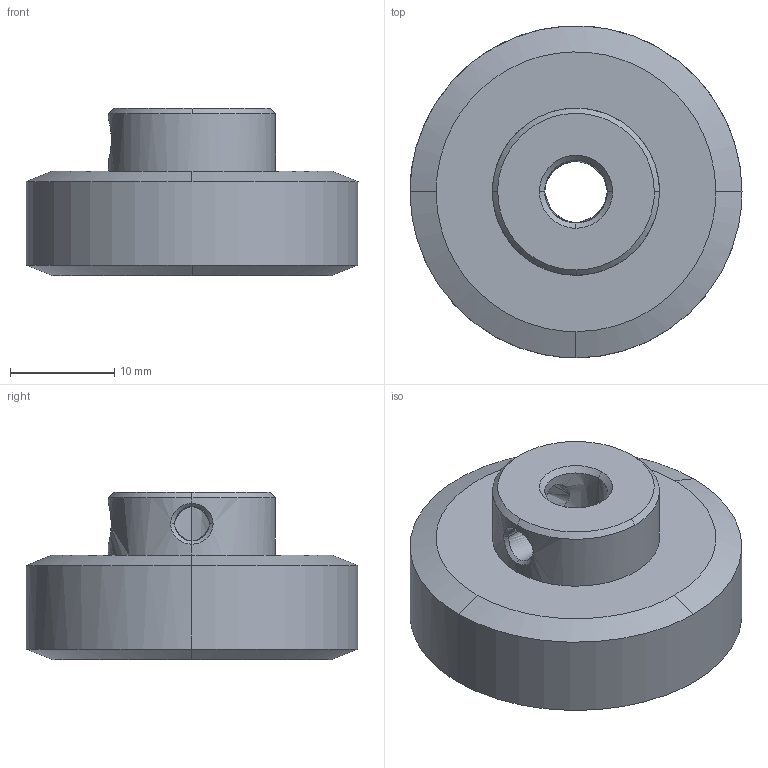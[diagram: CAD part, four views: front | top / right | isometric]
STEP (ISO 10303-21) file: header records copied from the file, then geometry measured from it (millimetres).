
FILE_DESCRIPTION (( 'STEP AP203' ), '1' );
FILE_NAME ('100-Y.STEP', '2021-07-27T00:20:41', ( 'Windows 蚚誧' ), ( '' ), 'SwSTEP 2.0', 'SolidWorks 2018', '' );
FILE_SCHEMA (( 'CONFIG_CONTROL_DESIGN' ));
Length unit declared in the file: millimetre
Products named in the file (1): 100-Y
Bounding box: 31.8 x 31.79 x 16 mm (x, y, z)
Volume: 8360.4 mm3; surface area: 3011.7 mm2
Topology: 1 solids, 1 shells, 34 faces, 83 edges, 50 vertices
Faces by surface type: bspline 34
Entity records: 1756 total; most frequent: CARTESIAN_POINT 1193, ORIENTED_EDGE 166, EDGE_CURVE 83, B_SPLINE_CURVE_WITH_KNOTS 59, VERTEX_POINT 50, EDGE_LOOP 39, ADVANCED_FACE 34, FACE_OUTER_BOUND 34
